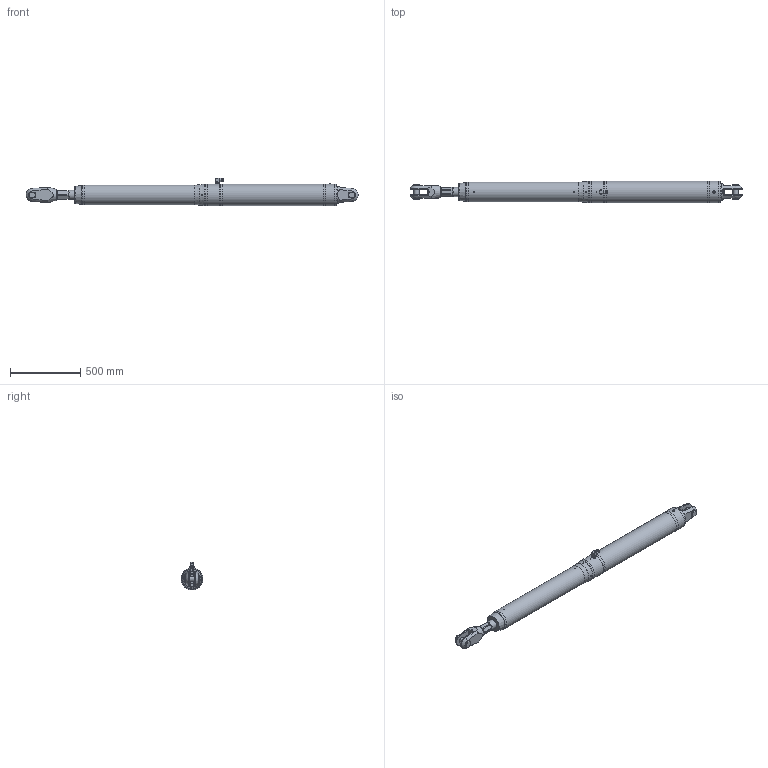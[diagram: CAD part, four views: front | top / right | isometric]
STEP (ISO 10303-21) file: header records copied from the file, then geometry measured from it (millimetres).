
FILE_DESCRIPTION(/* description */ (''),/* implementation_level */ '2;1');
FILE_NAME(/* name */ 'Q:\AA BRAND HYDRAULICS\HYDRAULICS FAMILY DIRECTORY\HYDRAULICS\CYLINDERS\MECHANICAL LOCK RAMS\ALUMINIUM - STAINLESS SINGLE ACTING (-0012 To -0150)\MSA-0115-S0700-NP-71\MSA-0115-S0700-NP-71 (Closed).stp',/* time_stamp */ '2018-04-25T17:28:38+01:00',/* author */ ('Lorena'),/* organization */ (''),/* preprocessor_version */ 'ST-DEVELOPER v17',/* originating_system */ 'Autodesk Inventor 2018',/* authorisation */ '');
FILE_SCHEMA (('AUTOMOTIVE_DESIGN { 1 0 10303 214 3 1 1 }'));
Length unit declared in the file: millimetre
Products named in the file (1): MSA-0115-S0700-NP-71
Bounding box: 2367.44 x 155.4 x 197.3 mm (x, y, z)
Volume: 34145288.8 mm3; surface area: 1097822.2 mm2
Topology: 2 solids, 4 shells, 496 faces, 1293 edges, 842 vertices
Faces by surface type: plane 281, cone 126, cylinder 75, torus 6, sphere 4, bspline 4
Full cylindrical faces by diameter (mm): 4 x1, 4.134 x1, 4.2 x2, 5 x1, 7 x1, 8 x4, 9 x1, 9.9 x1, 10 x2, 11.1 x1, 18.9 x1, 19 x3, 19.11 x1, 19.9 x1, 20 x1, 20.9 x2, 22 x2, 24 x2, 27.8 x3, 30 x1, 38.1 x2, 39 x1, 47.625 x2, 65 x2, 66 x2, 69 x1, 140 x1, 152.4 x1, 155.4 x4
Entity records: 16724 total; most frequent: CARTESIAN_POINT 4160, ORIENTED_EDGE 2570, DIRECTION 2510, EDGE_CURVE 1285, AXIS2_PLACEMENT_3D 965, VERTEX_POINT 843, LINE 580, VECTOR 580
